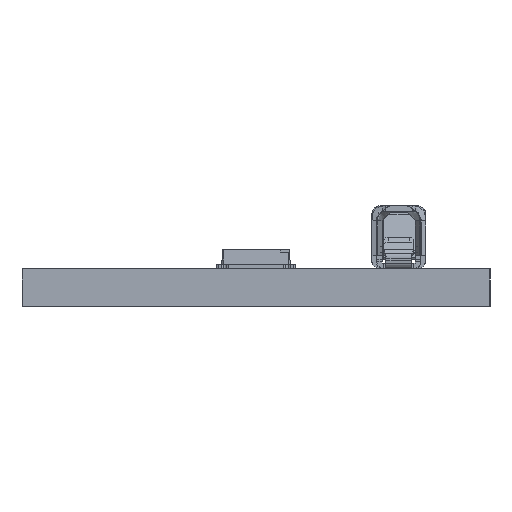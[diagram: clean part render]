
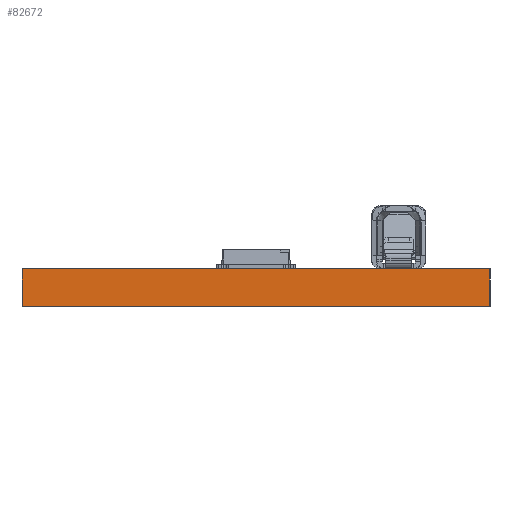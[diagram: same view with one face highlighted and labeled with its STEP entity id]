
A CAD part, left-side view. The second image highlights one B-rep face of the part: STEP entity #82672.
In plain terms, the highlighted planar face has unit normal (-1, 0, 0).
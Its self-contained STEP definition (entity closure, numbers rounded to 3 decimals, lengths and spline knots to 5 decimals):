
#7863=FACE_OUTER_BOUND('',#12241,.T.);
#12241=EDGE_LOOP('',(#70663,#70664,#70665,#70666));
#13632=LINE('',#116307,#22510);
#20785=LINE('',#137875,#29663);
#20833=LINE('',#137982,#29711);
#20834=LINE('',#137984,#29712);
#22510=VECTOR('',#91772,0.3937);
#29663=VECTOR('',#109457,0.3937);
#29711=VECTOR('',#109569,0.3937);
#29712=VECTOR('',#109572,0.3937);
#31190=VERTEX_POINT('',#116305);
#31191=VERTEX_POINT('',#116306);
#37431=VERTEX_POINT('',#137874);
#37458=VERTEX_POINT('',#137980);
#39199=EDGE_CURVE('',#31190,#31191,#13632,.T.);
#48551=EDGE_CURVE('',#31191,#37431,#20785,.T.);
#48605=EDGE_CURVE('',#31190,#37458,#20833,.T.);
#48606=EDGE_CURVE('',#37431,#37458,#20834,.T.);
#70663=ORIENTED_EDGE('',*,*,#39199,.F.);
#70664=ORIENTED_EDGE('',*,*,#48605,.T.);
#70665=ORIENTED_EDGE('',*,*,#48606,.F.);
#70666=ORIENTED_EDGE('',*,*,#48551,.F.);
#74471=PLANE('',#89045);
#82672=ADVANCED_FACE('',(#7863),#74471,.T.);
#89045=AXIS2_PLACEMENT_3D('',#137983,#109570,#109571);
#91772=DIRECTION('',(0.,-1.,0.));
#109457=DIRECTION('',(0.,0.,-1.));
#109569=DIRECTION('',(0.,0.,-1.));
#109570=DIRECTION('center_axis',(-1.,0.,0.));
#109571=DIRECTION('ref_axis',(0.,1.,0.));
#109572=DIRECTION('',(0.,1.,0.));
#116305=CARTESIAN_POINT('',(0.,0.7874,0.));
#116306=CARTESIAN_POINT('',(0.,0.,0.));
#116307=CARTESIAN_POINT('',(0.,0.7874,0.));
#137874=CARTESIAN_POINT('',(0.,0.,-0.06299));
#137875=CARTESIAN_POINT('',(0.,0.,0.));
#137980=CARTESIAN_POINT('',(0.,0.7874,-0.06299));
#137982=CARTESIAN_POINT('',(0.,0.7874,0.));
#137983=CARTESIAN_POINT('Origin',(0.,0.,0.));
#137984=CARTESIAN_POINT('',(0.,0.7874,-0.06299));
